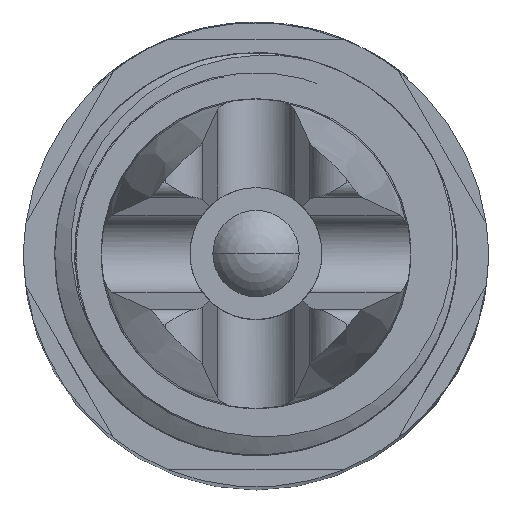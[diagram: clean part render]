
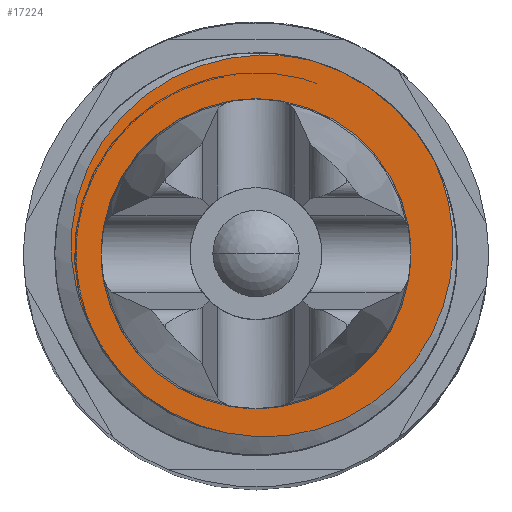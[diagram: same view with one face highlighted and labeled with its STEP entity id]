
A CAD part, top view. The second image highlights one B-rep face of the part: STEP entity #17224.
In plain terms, the highlighted planar face has unit normal (0, 0, 1).
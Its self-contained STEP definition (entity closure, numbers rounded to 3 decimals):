
#15707=CARTESIAN_POINT('',(-10.919,-4.252,15.));
#15708=CARTESIAN_POINT('',(-10.909,-4.274,15.));
#15709=CARTESIAN_POINT('',(-10.889,-4.319,15.));
#15710=CARTESIAN_POINT('',(-10.856,-4.391,15.));
#15711=CARTESIAN_POINT('',(-10.821,-4.468,15.));
#15712=CARTESIAN_POINT('',(-10.782,-4.55,15.));
#15713=CARTESIAN_POINT('',(-10.741,-4.638,15.));
#15714=CARTESIAN_POINT('',(-10.695,-4.732,15.));
#15715=CARTESIAN_POINT('',(-10.647,-4.832,15.));
#15716=CARTESIAN_POINT('',(-10.593,-4.938,15.));
#15717=CARTESIAN_POINT('',(-10.535,-5.052,15.));
#15718=CARTESIAN_POINT('',(-10.471,-5.173,15.));
#15719=CARTESIAN_POINT('',(-10.401,-5.303,15.));
#15720=CARTESIAN_POINT('',(-10.325,-5.443,15.));
#15721=CARTESIAN_POINT('',(-10.24,-5.591,15.));
#15722=CARTESIAN_POINT('',(-10.147,-5.75,15.));
#15723=CARTESIAN_POINT('',(-10.044,-5.919,15.));
#15724=CARTESIAN_POINT('',(-9.931,-6.099,15.));
#15725=CARTESIAN_POINT('',(-9.806,-6.29,15.));
#15726=CARTESIAN_POINT('',(-9.669,-6.492,15.));
#15727=CARTESIAN_POINT('',(-9.517,-6.706,15.));
#15728=CARTESIAN_POINT('',(-9.347,-6.934,15.));
#15729=CARTESIAN_POINT('',(-9.156,-7.178,15.));
#15730=CARTESIAN_POINT('',(-8.941,-7.439,15.));
#15731=CARTESIAN_POINT('',(-8.699,-7.716,15.));
#15732=CARTESIAN_POINT('',(-8.425,-8.01,15.));
#15733=CARTESIAN_POINT('',(-8.115,-8.321,15.));
#15734=CARTESIAN_POINT('',(-7.766,-8.647,15.));
#15735=CARTESIAN_POINT('',(-7.372,-8.984,15.));
#15736=CARTESIAN_POINT('',(-6.949,-9.315,15.));
#15737=CARTESIAN_POINT('',(-6.516,-9.625,15.));
#15738=CARTESIAN_POINT('',(-6.091,-9.902,15.));
#15739=CARTESIAN_POINT('',(-5.689,-10.142,15.));
#15740=CARTESIAN_POINT('',(-5.312,-10.349,15.));
#15741=CARTESIAN_POINT('',(-4.965,-10.524,15.));
#15742=CARTESIAN_POINT('',(-4.651,-10.671,15.));
#15743=CARTESIAN_POINT('',(-4.367,-10.795,15.));
#15744=CARTESIAN_POINT('',(-4.109,-10.901,15.));
#15745=CARTESIAN_POINT('',(-3.875,-10.991,15.));
#15746=CARTESIAN_POINT('',(-3.66,-11.069,15.));
#15747=CARTESIAN_POINT('',(-3.461,-11.138,15.));
#15748=CARTESIAN_POINT('',(-3.278,-11.198,15.));
#15749=CARTESIAN_POINT('',(-3.11,-11.25,15.));
#15750=CARTESIAN_POINT('',(-2.955,-11.296,15.));
#15751=CARTESIAN_POINT('',(-2.813,-11.337,15.));
#15752=CARTESIAN_POINT('',(-2.682,-11.373,15.));
#15753=CARTESIAN_POINT('',(-2.561,-11.404,15.));
#15754=CARTESIAN_POINT('',(-2.449,-11.433,15.));
#15755=CARTESIAN_POINT('',(-2.344,-11.459,15.));
#15756=CARTESIAN_POINT('',(-2.246,-11.482,15.));
#15757=CARTESIAN_POINT('',(-2.154,-11.504,15.));
#15758=CARTESIAN_POINT('',(-2.068,-11.523,15.));
#15759=CARTESIAN_POINT('',(-1.988,-11.541,15.));
#15760=CARTESIAN_POINT('',(-1.913,-11.557,15.));
#15761=CARTESIAN_POINT('',(-1.866,-11.567,15.));
#15762=CARTESIAN_POINT('',(-1.844,-11.572,15.));
#15764=CARTESIAN_POINT('',(3.64,12.48,15.));
#15765=CARTESIAN_POINT('',(3.077,12.618,15.));
#15766=CARTESIAN_POINT('',(1.888,12.828,15.));
#15767=CARTESIAN_POINT('',(-0.078,12.889,15.));
#15768=CARTESIAN_POINT('',(-2.31,12.599,15.));
#15769=CARTESIAN_POINT('',(-4.738,11.792,15.));
#15770=CARTESIAN_POINT('',(-7.056,10.431,15.));
#15771=CARTESIAN_POINT('',(-9.097,8.531,15.));
#15772=CARTESIAN_POINT('',(-10.66,6.216,15.));
#15773=CARTESIAN_POINT('',(-11.652,3.645,15.));
#15774=CARTESIAN_POINT('',(-12.041,0.948,15.));
#15775=CARTESIAN_POINT('',(-11.819,-1.739,15.));
#15776=CARTESIAN_POINT('',(-11.287,-3.428,15.));
#15777=CARTESIAN_POINT('',(-10.919,-4.252,15.));
#15779=CARTESIAN_POINT('',(0.,0.,15.));
#15780=DIRECTION('',(0.,0.,1.));
#15781=DIRECTION('',(0.884,0.468,0.));
#15782=AXIS2_PLACEMENT_3D('',#15779,#15780,#15781);
#15784=CARTESIAN_POINT('',(-1.844,-11.572,15.));
#15785=CARTESIAN_POINT('',(-1.427,-11.659,15.));
#15786=CARTESIAN_POINT('',(-0.596,-11.786,
15.));
#15787=CARTESIAN_POINT('',(0.639,-11.843,
15.));
#15788=CARTESIAN_POINT('',(1.865,-11.774,
15.));
#15789=CARTESIAN_POINT('',(3.155,-11.566,
15.));
#15790=CARTESIAN_POINT('',(4.556,-11.171,
15.));
#15791=CARTESIAN_POINT('',(6.083,-10.523,
15.));
#15792=CARTESIAN_POINT('',(7.752,-9.501,
15.));
#15793=CARTESIAN_POINT('',(9.374,-8.07,
15.));
#15794=CARTESIAN_POINT('',(10.713,-6.371,
15.));
#15795=CARTESIAN_POINT('',(11.688,-4.577,
15.));
#15796=CARTESIAN_POINT('',(12.342,-2.717,
15.));
#15797=CARTESIAN_POINT('',(12.689,-0.867,
15.));
#15798=CARTESIAN_POINT('',(12.763,0.933,
15.));
#15799=CARTESIAN_POINT('',(12.589,2.706,15.));
#15800=CARTESIAN_POINT('',(12.174,4.425,15.001));
#15801=CARTESIAN_POINT('',(11.745,5.538,14.998));
#15802=CARTESIAN_POINT('',(11.486,6.084,14.998));
#16310=VERTEX_POINT('',#15707);
#16311=VERTEX_POINT('',#15762);
#16312=VERTEX_POINT('',#15802);
#16313=VERTEX_POINT('',#15764);
#17210=CARTESIAN_POINT('',(0.,0.,15.));
#17211=DIRECTION('',(0.,0.,1.));
#17212=DIRECTION('',(1.,0.,0.));
#17213=AXIS2_PLACEMENT_3D('',#17210,#17211,#17212);
#17214=PLANE('',#17213);
#17216=ORIENTED_EDGE('',*,*,#17215,.F.);
#17218=ORIENTED_EDGE('',*,*,#17217,.F.);
#17220=ORIENTED_EDGE('',*,*,#17219,.F.);
#17221=ORIENTED_EDGE('',*,*,#17190,.F.);
#17222=EDGE_LOOP('',(#17216,#17218,#17220,#17221));
#17223=FACE_OUTER_BOUND('',#17222,.F.);
#17224=ADVANCED_FACE('',(#17223),#17214,.T.);
#15763=B_SPLINE_CURVE_WITH_KNOTS('',3,(#15707,#15708,#15709,#15710,#15711,
#15712,#15713,#15714,#15715,#15716,#15717,#15718,#15719,#15720,#15721,#15722,
#15723,#15724,#15725,#15726,#15727,#15728,#15729,#15730,#15731,#15732,#15733,
#15734,#15735,#15736,#15737,#15738,#15739,#15740,#15741,#15742,#15743,#15744,
#15745,#15746,#15747,#15748,#15749,#15750,#15751,#15752,#15753,#15754,#15755,
#15756,#15757,#15758,#15759,#15760,#15761,#15762),.UNSPECIFIED.,.F.,.F.,(4,1,1,
1,1,1,1,1,1,1,1,1,1,1,1,1,1,1,1,1,1,1,1,1,1,1,1,1,1,1,1,1,1,1,1,1,1,1,1,1,1,1,1,
1,1,1,1,1,1,1,1,1,1,4),(0.,0.019,0.038,
0.057,0.075,0.094,0.113,
0.132,0.151,0.17,0.189,
0.208,0.226,0.245,0.264,
0.283,0.302,0.321,0.34,
0.358,0.377,0.396,0.415,
0.434,0.453,0.472,0.491,
0.509,0.528,0.547,0.566,
0.585,0.604,0.623,0.642,
0.66,0.679,0.698,0.717,
0.736,0.755,0.774,0.792,
0.811,0.83,0.849,0.868,
0.887,0.906,0.925,0.943,
0.962,0.981,1.),.UNSPECIFIED.);
#15778=B_SPLINE_CURVE_WITH_KNOTS('',3,(#15764,#15765,#15766,#15767,#15768,
#15769,#15770,#15771,#15772,#15773,#15774,#15775,#15776,#15777),.UNSPECIFIED.,
.F.,.F.,(4,1,1,1,1,1,1,1,1,1,1,4),(0.,0.091,0.182,
0.273,0.364,0.455,0.545,
0.636,0.727,0.818,0.909,1.),
.UNSPECIFIED.);
#15783=CIRCLE('',#15782,13.);
#15803=B_SPLINE_CURVE_WITH_KNOTS('',3,(#15784,#15785,#15786,#15787,#15788,
#15789,#15790,#15791,#15792,#15793,#15794,#15795,#15796,#15797,#15798,#15799,
#15800,#15801,#15802),.UNSPECIFIED.,.F.,.F.,(4,1,1,1,1,1,1,1,1,1,1,1,1,1,1,1,4),
(0.,0.063,0.125,0.188,0.25,0.313,0.375,0.438,0.5,0.563,
0.625,0.688,0.75,0.813,0.875,0.938,1.),.UNSPECIFIED.);
#17190=EDGE_CURVE('',#16311,#16312,#15803,.T.);
#17215=EDGE_CURVE('',#16310,#16311,#15763,.T.);
#17217=EDGE_CURVE('',#16313,#16310,#15778,.T.);
#17219=EDGE_CURVE('',#16312,#16313,#15783,.T.);
